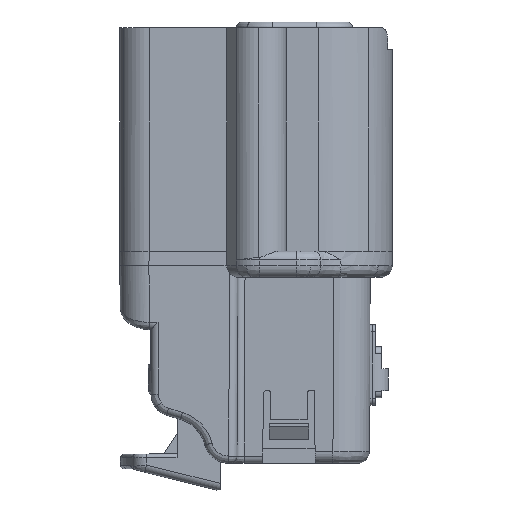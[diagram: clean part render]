
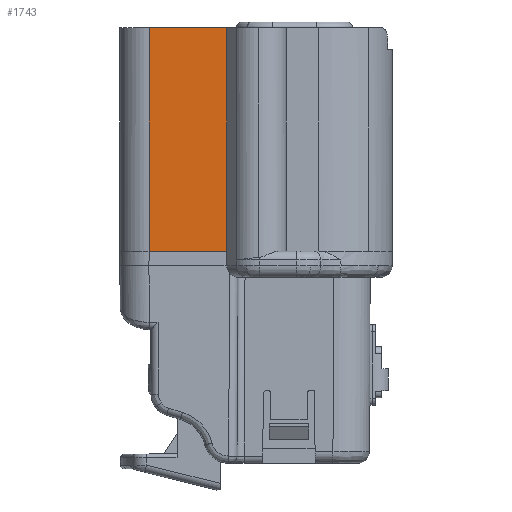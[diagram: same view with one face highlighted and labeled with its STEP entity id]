
A CAD part, left-side view. The second image highlights one B-rep face of the part: STEP entity #1743.
In plain terms, the highlighted planar face has unit normal (-1, 0, 0).
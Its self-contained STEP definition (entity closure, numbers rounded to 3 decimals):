
#1743=ADVANCED_FACE('',(#3876),#3877,.F.);
#3876=FACE_OUTER_BOUND('',#7419,.T.);
#3877=PLANE('',#7420);
#7419=EDGE_LOOP('',(#13989,#13990,#13991,#13992));
#7420=AXIS2_PLACEMENT_3D('',#13993,#13994,#13995);
#13989=ORIENTED_EDGE('',*,*,#19396,.T.);
#13990=ORIENTED_EDGE('',*,*,#19397,.F.);
#13991=ORIENTED_EDGE('',*,*,#19241,.F.);
#13992=ORIENTED_EDGE('',*,*,#17718,.T.);
#13993=CARTESIAN_POINT('',(-8.077,4.271,0.0));
#13994=DIRECTION('',(1.0,0.,0.));
#13995=DIRECTION('',(0.,0.,-1.0));
#17718=EDGE_CURVE('',#20942,#20940,#20943,.T.);
#19241=EDGE_CURVE('',#20942,#23234,#23235,.T.);
#19396=EDGE_CURVE('',#20940,#23441,#23442,.T.);
#19397=EDGE_CURVE('',#23234,#23441,#23443,.T.);
#20940=VERTEX_POINT('',#25626);
#20942=VERTEX_POINT('',#25632);
#20943=LINE('',#25633,#25634);
#23234=VERTEX_POINT('',#29223);
#23235=LINE('',#29224,#29225);
#23441=VERTEX_POINT('',#29532);
#23442=LINE('',#29533,#29534);
#23443=LINE('',#29535,#29536);
#25626=CARTESIAN_POINT('',(-8.077,9.397,-15.34));
#25632=CARTESIAN_POINT('',(-8.077,9.397,0.0));
#25633=CARTESIAN_POINT('',(-8.077,9.397,-7.67));
#25634=VECTOR('',#33598,1000.0);
#29223=CARTESIAN_POINT('',(-8.077,4.072,0.0));
#29224=CARTESIAN_POINT('',(-8.077,4.271,0.0));
#29225=VECTOR('',#35075,1000.0);
#29532=CARTESIAN_POINT('',(-8.077,4.072,-15.34));
#29533=CARTESIAN_POINT('',(-8.077,4.271,-15.34));
#29534=VECTOR('',#35220,1000.0);
#29535=CARTESIAN_POINT('',(-8.077,4.072,0.0));
#29536=VECTOR('',#35221,1000.0);
#33598=DIRECTION('',(0.,0.,-1.0));
#35075=DIRECTION('',(0.,-1.0,0.));
#35220=DIRECTION('',(0.,-1.0,0.));
#35221=DIRECTION('',(0.,0.,-1.0));
